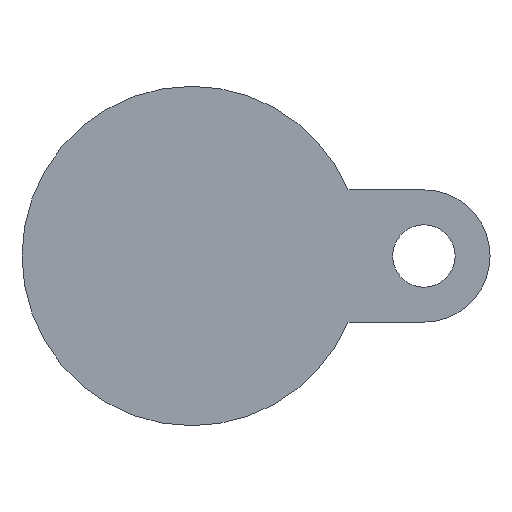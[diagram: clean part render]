
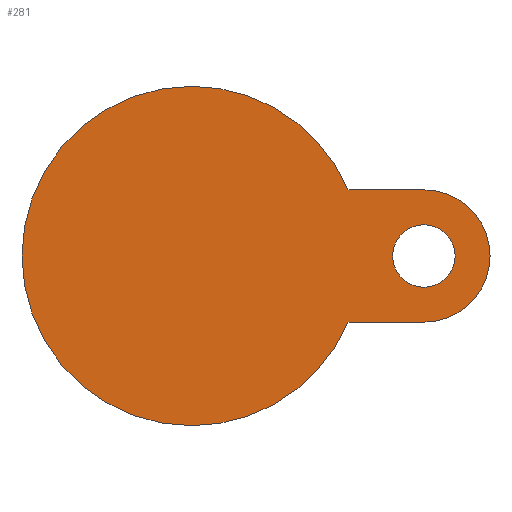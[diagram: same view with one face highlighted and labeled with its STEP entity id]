
A CAD part, front view. The second image highlights one B-rep face of the part: STEP entity #281.
In plain terms, the highlighted planar face has unit normal (0, -1, 0).
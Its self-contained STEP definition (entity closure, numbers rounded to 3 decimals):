
#111 = CARTESIAN_POINT ( 'NONE',  ( 65., -22., 0. ) ) ;
#219 = EDGE_CURVE ( 'NONE', #1045, #464, #4353, .T. ) ;
#266 = CIRCLE ( 'NONE', #3190, 47.5 ) ;
#281 = ADVANCED_FACE ( 'NONE', ( #2901, #346 ), #3347, .T. ) ;
#346 = FACE_BOUND ( 'NONE', #2618, .T. ) ;
#369 = DIRECTION ( 'NONE',  ( 0., 1., 0. ) ) ;
#464 = VERTEX_POINT ( 'NONE', #5482 ) ;
#576 = CIRCLE ( 'NONE', #2790, 8.75 ) ;
#588 = LINE ( 'NONE', #1359, #4693 ) ;
#651 = ORIENTED_EDGE ( 'NONE', *, *, #4629, .T. ) ;
#689 = DIRECTION ( 'NONE',  ( 0., 0., 1. ) ) ;
#872 = VERTEX_POINT ( 'NONE', #977 ) ;
#956 = ORIENTED_EDGE ( 'NONE', *, *, #1734, .T. ) ;
#977 = CARTESIAN_POINT ( 'NONE',  ( 65., -22., 8.75 ) ) ;
#1045 = VERTEX_POINT ( 'NONE', #3256 ) ;
#1047 = ORIENTED_EDGE ( 'NONE', *, *, #219, .F. ) ;
#1056 = AXIS2_PLACEMENT_3D ( 'NONE', #2350, #2717, #689 ) ;
#1084 = LINE ( 'NONE', #1168, #2359 ) ;
#1127 = CARTESIAN_POINT ( 'NONE',  ( 65., -22., 18.5 ) ) ;
#1168 = CARTESIAN_POINT ( 'NONE',  ( 65., -22., -18.5 ) ) ;
#1222 = EDGE_CURVE ( 'NONE', #4549, #872, #1837, .T. ) ;
#1230 = DIRECTION ( 'NONE',  ( 0., -1., 0. ) ) ;
#1305 = DIRECTION ( 'NONE',  ( 0., 0., 1. ) ) ;
#1359 = CARTESIAN_POINT ( 'NONE',  ( 28.666, -22., 18.5 ) ) ;
#1401 = VERTEX_POINT ( 'NONE', #4838 ) ;
#1403 = DIRECTION ( 'NONE',  ( 0., 0., 1. ) ) ;
#1412 = CARTESIAN_POINT ( 'NONE',  ( 65., -22., -8.75 ) ) ;
#1449 = ORIENTED_EDGE ( 'NONE', *, *, #1222, .F. ) ;
#1500 = CIRCLE ( 'NONE', #1681, 18.5 ) ;
#1533 = CARTESIAN_POINT ( 'NONE',  ( 43.749, -22., -18.5 ) ) ;
#1681 = AXIS2_PLACEMENT_3D ( 'NONE', #111, #4756, #2601 ) ;
#1734 = EDGE_CURVE ( 'NONE', #2503, #1401, #588, .T. ) ;
#1837 = CIRCLE ( 'NONE', #2278, 8.75 ) ;
#1846 = ORIENTED_EDGE ( 'NONE', *, *, #2105, .F. ) ;
#1904 = VERTEX_POINT ( 'NONE', #1533 ) ;
#2105 = EDGE_CURVE ( 'NONE', #1904, #1045, #4435, .T. ) ;
#2237 = DIRECTION ( 'NONE',  ( 0., 1., 0. ) ) ;
#2278 = AXIS2_PLACEMENT_3D ( 'NONE', #2990, #4102, #4691 ) ;
#2283 = DIRECTION ( 'NONE',  ( -1., 0., 0. ) ) ;
#2290 = ORIENTED_EDGE ( 'NONE', *, *, #5352, .F. ) ;
#2350 = CARTESIAN_POINT ( 'NONE',  ( 0., -22., 0. ) ) ;
#2359 = VECTOR ( 'NONE', #5346, 1000. ) ;
#2396 = DIRECTION ( 'NONE',  ( 0., 0., -1. ) ) ;
#2503 = VERTEX_POINT ( 'NONE', #1127 ) ;
#2601 = DIRECTION ( 'NONE',  ( 0., 0., -1. ) ) ;
#2618 = EDGE_LOOP ( 'NONE', ( #1449, #4535 ) ) ;
#2717 = DIRECTION ( 'NONE',  ( 0., 1., 0. ) ) ;
#2790 = AXIS2_PLACEMENT_3D ( 'NONE', #5410, #4936, #2396 ) ;
#2806 = AXIS2_PLACEMENT_3D ( 'NONE', #5048, #1230, #4290 ) ;
#2891 = EDGE_CURVE ( 'NONE', #872, #4549, #576, .T. ) ;
#2898 = VERTEX_POINT ( 'NONE', #4105 ) ;
#2901 = FACE_OUTER_BOUND ( 'NONE', #5438, .T. ) ;
#2986 = ORIENTED_EDGE ( 'NONE', *, *, #5454, .T. ) ;
#2990 = CARTESIAN_POINT ( 'NONE',  ( 65., -22., 0. ) ) ;
#3190 = AXIS2_PLACEMENT_3D ( 'NONE', #4365, #2237, #1403 ) ;
#3256 = CARTESIAN_POINT ( 'NONE',  ( 0., -22., -47.5 ) ) ;
#3347 = PLANE ( 'NONE',  #2806 ) ;
#3793 = CARTESIAN_POINT ( 'NONE',  ( 0., -22., 0. ) ) ;
#4102 = DIRECTION ( 'NONE',  ( 0., -1., 0. ) ) ;
#4105 = CARTESIAN_POINT ( 'NONE',  ( 65., -22., -18.5 ) ) ;
#4290 = DIRECTION ( 'NONE',  ( 0., 0., -1. ) ) ;
#4353 = CIRCLE ( 'NONE', #4911, 47.5 ) ;
#4365 = CARTESIAN_POINT ( 'NONE',  ( 0., -22., 0. ) ) ;
#4435 = CIRCLE ( 'NONE', #1056, 47.5 ) ;
#4535 = ORIENTED_EDGE ( 'NONE', *, *, #2891, .F. ) ;
#4549 = VERTEX_POINT ( 'NONE', #1412 ) ;
#4629 = EDGE_CURVE ( 'NONE', #1904, #2898, #1084, .T. ) ;
#4691 = DIRECTION ( 'NONE',  ( 0., 0., -1. ) ) ;
#4693 = VECTOR ( 'NONE', #2283, 1000. ) ;
#4756 = DIRECTION ( 'NONE',  ( 0., -1., 0. ) ) ;
#4838 = CARTESIAN_POINT ( 'NONE',  ( 43.749, -22., 18.5 ) ) ;
#4911 = AXIS2_PLACEMENT_3D ( 'NONE', #3793, #369, #1305 ) ;
#4936 = DIRECTION ( 'NONE',  ( 0., -1., 0. ) ) ;
#5048 = CARTESIAN_POINT ( 'NONE',  ( 0., -22., 0. ) ) ;
#5346 = DIRECTION ( 'NONE',  ( 1., 0., 0. ) ) ;
#5352 = EDGE_CURVE ( 'NONE', #464, #1401, #266, .T. ) ;
#5410 = CARTESIAN_POINT ( 'NONE',  ( 65., -22., 0. ) ) ;
#5438 = EDGE_LOOP ( 'NONE', ( #956, #2290, #1047, #1846, #651, #2986 ) ) ;
#5454 = EDGE_CURVE ( 'NONE', #2898, #2503, #1500, .T. ) ;
#5482 = CARTESIAN_POINT ( 'NONE',  ( 0., -22., 47.5 ) ) ;
